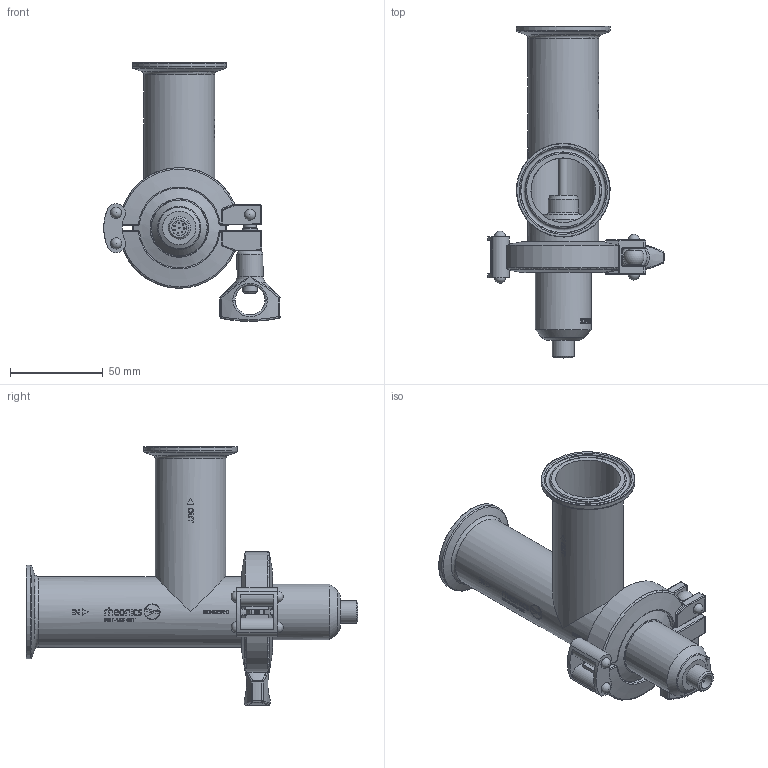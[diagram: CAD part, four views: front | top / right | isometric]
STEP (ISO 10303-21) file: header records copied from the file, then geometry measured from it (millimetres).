
FILE_DESCRIPTION(/* description */ ('Unknown'),/* implementation_level */ '2;1');
FILE_NAME(/* name */ 'SRV-X3-15T_FET-15T-15T',/* time_stamp */ '2024-08-09T15:49:22-05:00',/* author */ ('Unknown'),/* organization */ ('Unknown'),/* preprocessor_version */ 'ST-DEVELOPER v16.7',/* originating_system */ 'Solid Edge',/* authorisation */ 'Unknown');
FILE_SCHEMA (('AUTOMOTIVE_DESIGN {1 0 10303 214 3 1 1}'));
Length unit declared in the file: millimetre
Products named in the file (5): SRV-X3-15T_FET-15T-15T; SRV-X3-15T; TC-15T-Seal; TC-15T-Clamp; FET-15T-15T
Assembly tree (4 placements, depth 2):
  SRV-X3-15T_FET-15T-15T
    SRV-X3-15T
    TC-15T-Seal
    TC-15T-Clamp
    FET-15T-15T
Bounding box: 95.05 x 178.65 x 139.22 mm (x, y, z)
Volume: 130742.3 mm3; surface area: 81645.1 mm2
Topology: 4 solids, 4 shells, 1154 faces, 2884 edges, 1840 vertices
Faces by surface type: bspline 396, plane 373, cylinder 258, torus 65, cone 37, sphere 25
Full cylindrical faces by diameter (mm): 0.8 x8, 5.019 x1, 6 x8, 6.8 x1, 8 x4, 12 x1, 14 x1, 16 x2, 26 x1, 30 x1, 34.8 x2, 38.1 x2, 38.2 x1, 50.5 x5
Entity records: 72453 total; most frequent: CARTESIAN_POINT 42383, ORIENTED_EDGE 5390, DIRECTION 4022, EDGE_CURVE 2695, VERTEX_POINT 1793, AXIS2_PLACEMENT_3D 1479, EDGE_LOOP 1410, FACE_BOUND 1410
